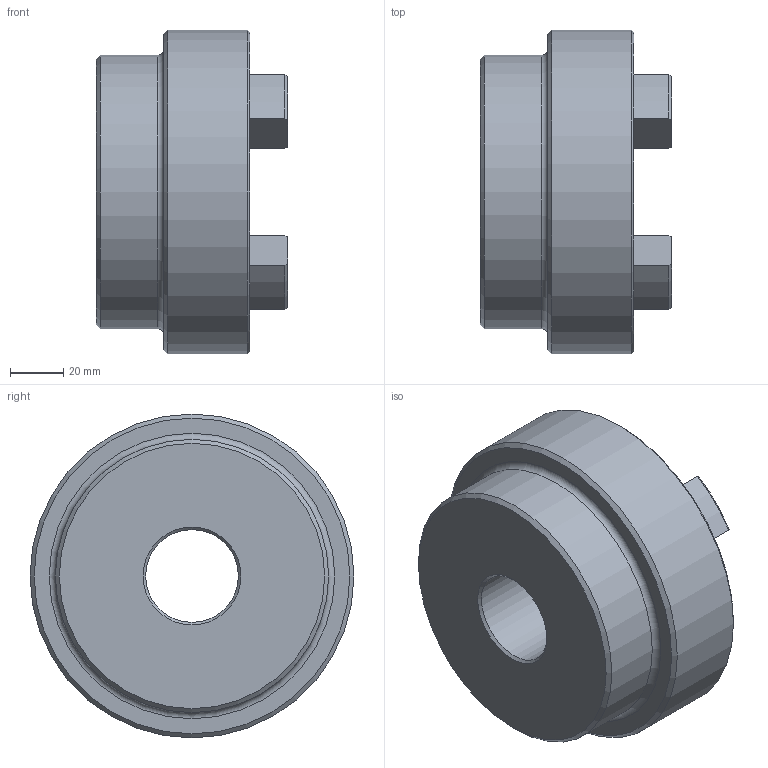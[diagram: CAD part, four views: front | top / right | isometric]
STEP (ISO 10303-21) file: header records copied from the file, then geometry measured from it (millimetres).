
FILE_DESCRIPTION (( 'STEP AP203' ), '1' );
FILE_NAME ('RC5.step', '2024-07-25T13:24:00', ( 'Adlan' ), ( '' ), 'SwSTEP 2.0', 'SolidWorks 2013', '' );
FILE_SCHEMA (( 'CONFIG_CONTROL_DESIGN' ));
Length unit declared in the file: inch
Products named in the file (1): RC5
Bounding box: 72.14 x 122.17 x 122.17 mm (x, y, z)
Volume: 440081.6 mm3; surface area: 58323.3 mm2
Topology: 1 solids, 1 shells, 76 faces, 189 edges, 117 vertices
Faces by surface type: cylinder 31, torus 17, plane 16, cone 12
Full cylindrical faces by diameter (mm): 34.938 x1, 103.124 x1, 122.174 x1
Entity records: 2349 total; most frequent: CARTESIAN_POINT 443, DIRECTION 416, ORIENTED_EDGE 358, EDGE_CURVE 179, AXIS2_PLACEMENT_3D 168, VERTEX_POINT 115, CIRCLE 91, EDGE_LOOP 88
